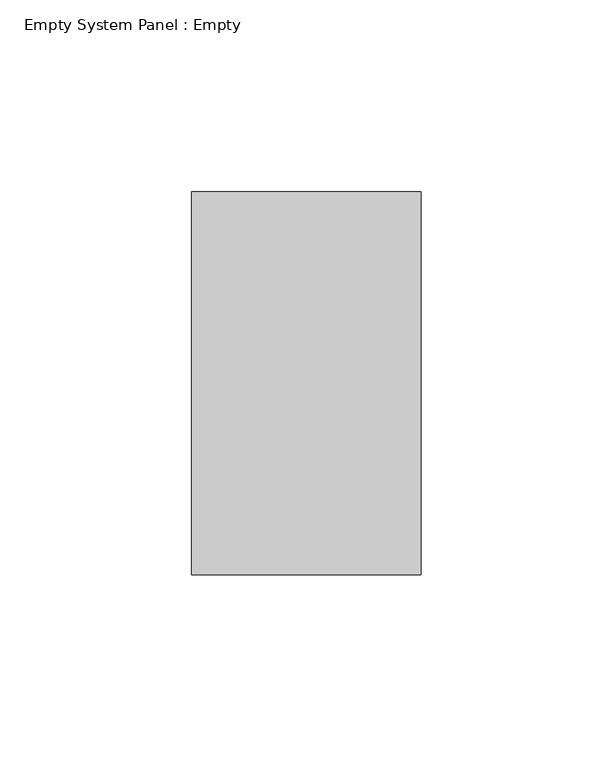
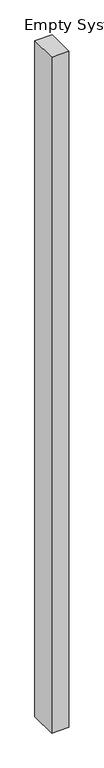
"""IFC4 building model written with IfcOpenShell, lengths in millimetres: plate geometry, Empty System Panel : Empty."""

from ifc_helpers import new_model, si_unit, origin, origin_with_axes, place, context, project, spatial, polyline, outline, extrude, source, transform, mapped, element, save


def empty_system_panel_empty_aff67664(model_context):
    return source(origin(), model_context, "Body", "SweptSolid", [
        extrude(outline(polyline([(30.0000002, -150.0), (-30.0000002, -150.0), (-30.0000002, -50.0), (30.0000002, -50.0), (30.0000002, -150.0)])), origin_with_axes(), (0.0, 0.0, 1.0), 2475.0),
    ])


if __name__ == "__main__":
    model = new_model("IFC4")
    model_context = context("Model", 3, world=origin())
    ifc_project = project(units=[si_unit("LENGTHUNIT", "METRE", prefix="MILLI")], contexts=[model_context])
    site = spatial("IfcSite", under=ifc_project)
    building = spatial("IfcBuilding", under=site)
    placement = place(None, origin())
    empty_system_panel_empty_shape = empty_system_panel_empty_aff67664(model_context)
    element("IfcPlate", 1, ObjectType="Empty System Panel : Empty", at=placement, inside=building, context=model_context, shape_type="MappedRepresentation", body=[
        mapped(empty_system_panel_empty_shape, transform((0.0, 0.0, 0.0), x_axis=(1.0, 0.0, 0.0), y_axis=(0.0, 1.0, 0.0), z_axis=(0.0, 0.0, 1.0))),
    ])
    save(model, "model.ifc")
